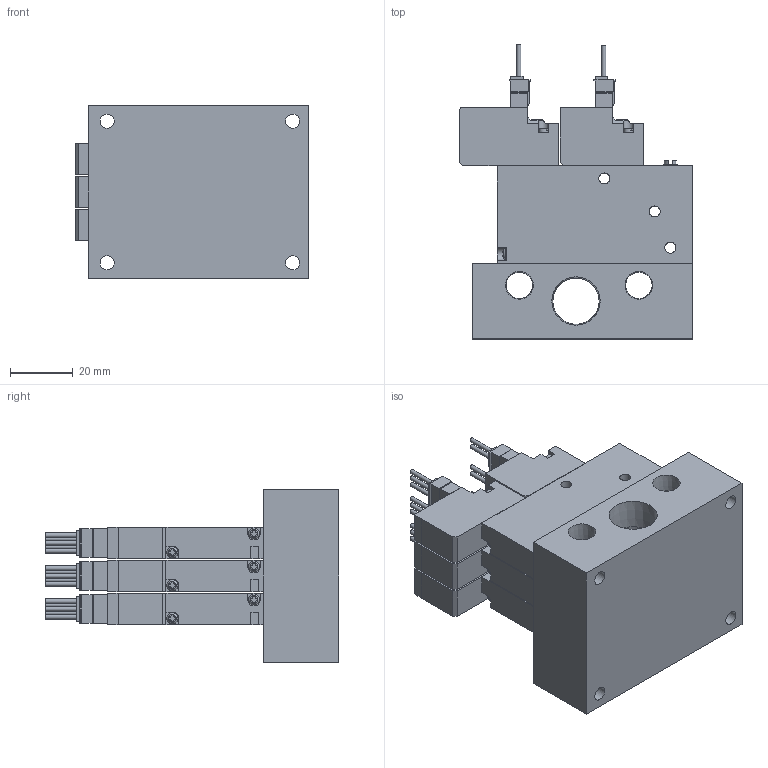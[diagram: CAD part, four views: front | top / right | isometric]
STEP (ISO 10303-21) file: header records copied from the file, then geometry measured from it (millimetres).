
FILE_DESCRIPTION(('STEP AP203'),'1');
FILE_NAME('BMPV42MZZ5W303.stp','2025-04-30T01:27:12',(' '),(' '),'Spatial InterOp 3D',' ',' ');
FILE_SCHEMA(('CONFIG_CONTROL_DESIGN'));
Length unit declared in the file: millimetre
Products named in the file (5): BMPV42MZZ5W303; VACUUM VALVE FUNCTION MPV42-W; VACUUM VALVE FUNCTION MPV42-A; UNIT-MPV42; MPV42-M30R-1
Assembly tree (10 placements, depth 2):
  BMPV42MZZ5W303
    VACUUM VALVE FUNCTION MPV42-W  x3
    VACUUM VALVE FUNCTION MPV42-A  x3
    UNIT-MPV42  x3
    MPV42-M30R-1
Bounding box: 74 x 93.45 x 55 mm (x, y, z)
Volume: 162781.1 mm3; surface area: 53202.6 mm2
Topology: 10 solids, 10 shells, 811 faces, 2182 edges, 1454 vertices
Faces by surface type: plane 654, cylinder 130, cone 15, sphere 6, torus 6
Full cylindrical faces by diameter (mm): 1.4 x15, 1.8 x3, 2.2 x6, 3 x12, 3.5 x21, 4.134 x3, 4.5 x4, 5 x3, 8.441 x2, 14.744 x1
Entity records: 8863 total; most frequent: CARTESIAN_POINT 1596, DIRECTION 1415, ORIENTED_EDGE 1402, EDGE_CURVE 701, LINE 559, VECTOR 559, VERTEX_POINT 489, AXIS2_PLACEMENT_3D 428
